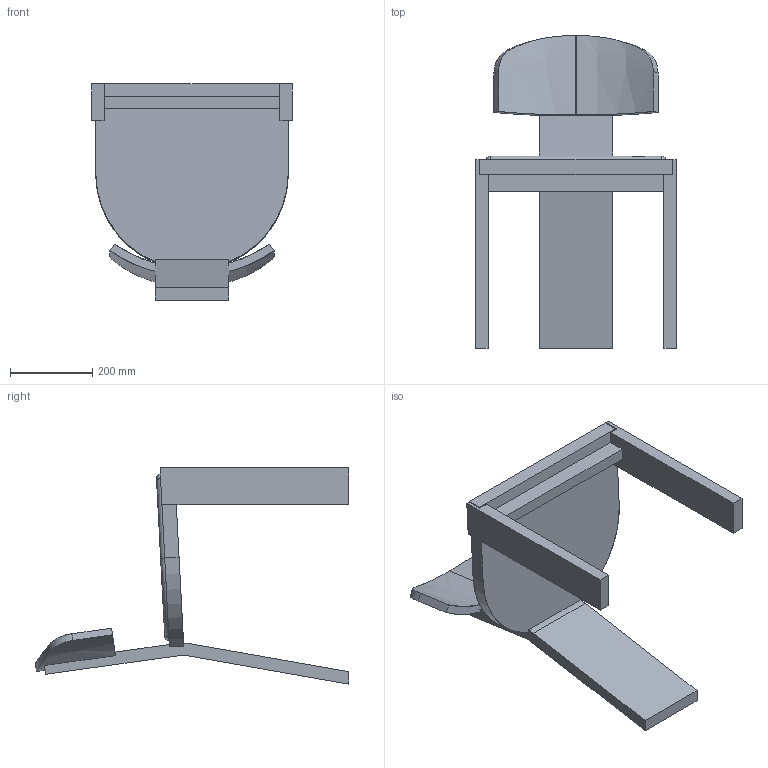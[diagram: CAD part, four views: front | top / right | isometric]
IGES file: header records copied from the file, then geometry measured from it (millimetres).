
Start section: SolidWorks IGES file using analytic representation for surfaces
Global section: file name: C:\Users\Utilizador\Desktop\Sales Files\171\171Z Vega Dining Chair_3D IGS.IGS; native system: SolidWorks 2016; preprocessor: SolidWorks 2016; author: Utilizador; date: 221104.151415; units: millimetre
Bounding box: 489 x 763.96 x 527.46 mm (x, y, z)
Surface area: 1085769.9 mm2 (no closed solid volume)
Topology: 0 solids, 0 shells, 72 faces, 658 edges, 658 vertices
Faces by surface type: bspline 63, revolution 9
